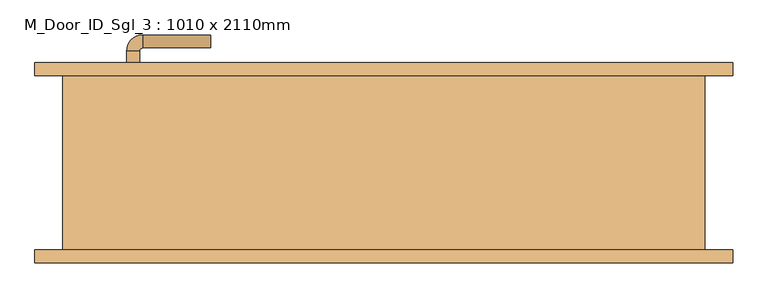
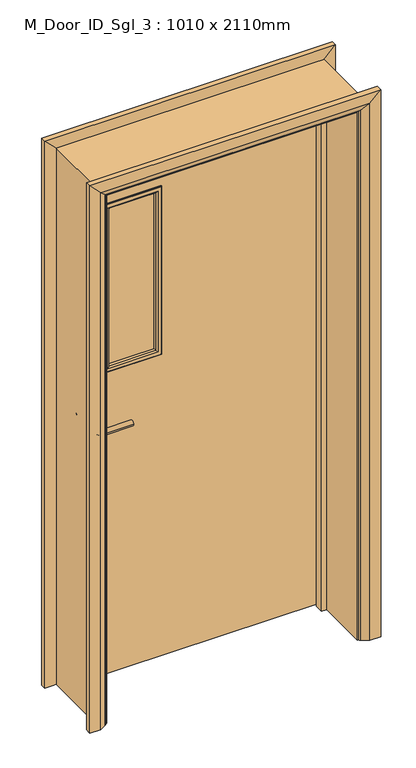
"""IFC4 building model written with IfcOpenShell, lengths in millimetres: door geometry, M_Door_ID_Sgl_3 : 1010 x 2110mm."""

from ifc_helpers import new_model, si_unit, point, frame, frame_2d, origin, place, context, project, spatial, polyline, circle_curve, ellipse_curve, trimmed, segment, composite_curve, outline, extrude, faceted_brep, source, transform, mapped, element, save
from ifc_brep_helpers import plane_surface, cylinder_surface, revolved_surface, advanced_brep


def m_door_id_sgl_3_1010_x_2110mm_fbabd271(model_context):
    return source(origin(), model_context, "Body", "SolidModel", [
        advanced_brep(
        [(-398.0, 89.0, 1000.0), (-378.0, 89.0, 1000.0), (-378.0, 59.0, 1000.0), (-398.0, 59.0, 1000.0), (-373.0, 54.0, 1000.0), (-373.0, 34.0, 1000.0), (-268.0, 34.0, 1000.0), (-268.0, 54.0, 1000.0)],
        [
            (0, 1, circle_curve(frame((-388.0, 89.0, 1000.0), z_axis=(0.0, 1.0, 0.0), x_axis=(1.0, 0.0, 0.0)), 10.0)),
            (1, 0, circle_curve(frame((-388.0, 89.0, 1000.0), z_axis=(0.0, 1.0, 0.0), x_axis=(1.0, 0.0, 0.0)), 10.0)),
            (1, 2),
            (2, 3, circle_curve(frame((-388.0, 59.0, 1000.0), z_axis=(0.0, 1.0, 0.0), x_axis=(1.0, 0.0, 0.0)), 10.0)),
            (3, 0),
            (3, 2, circle_curve(frame((-388.0, 59.0, 1000.0), z_axis=(0.0, 1.0, 0.0), x_axis=(1.0, 0.0, 0.0)), 10.0)),
            (4, 5, circle_curve(frame((-373.0, 44.0, 1000.0), z_axis=(-1.0, 0.0, 0.0), x_axis=(0.0, 1.0, 0.0)), 10.0)),
            (5, 3, circle_curve(frame((-373.0, 59.0, 1000.0), z_axis=(0.0, 0.0, -1.0), x_axis=(-1.0, 0.0, 0.0)), 25.0)),
            (2, 4, circle_curve(frame((-373.0, 59.0, 1000.0), z_axis=(0.0, 0.0, 1.0), x_axis=(-1.0, 0.0, 0.0)), 5.0)),
            (5, 4, circle_curve(frame((-373.0, 44.0, 1000.0), z_axis=(-1.0, 0.0, 0.0), x_axis=(0.0, 1.0, 0.0)), 10.0)),
            (6, 7, circle_curve(frame((-268.0, 44.0, 1000.0), z_axis=(1.0, 0.0, 0.0), x_axis=(0.0, 1.0, 0.0)), 10.0)),
            (7, 6, circle_curve(frame((-268.0, 44.0, 1000.0), z_axis=(1.0, 0.0, 0.0), x_axis=(0.0, 1.0, 0.0)), 10.0)),
            (4, 7),
            (6, 5),
        ],
        [
            plane_surface(frame((-388.0, 89.0, 1000.0), z_axis=(0.0, 1.0, 0.0), x_axis=(0.0, 0.0, 1.0))),
            cylinder_surface(frame((-388.0, 89.0, 1000.0), z_axis=(0.0, 1.0, 0.0), x_axis=(1.0, 0.0, 0.0)), 10.0),
            revolved_surface(trimmed(ellipse_curve(frame((-388.0, 59.0, 1000.0), z_axis=(0.0, -1.0, 0.0), x_axis=(1.0, 0.0, 0.0)), 10.0, 10.0), [point((-398.0, 59.0, 1000.0))], [point((-378.0, 59.0, 1000.0))], True, "CARTESIAN"), (-373.0, 59.0, 1000.0), (0.0, 0.0, -1.0)),
            revolved_surface(trimmed(ellipse_curve(frame((-388.0, 59.0, 1000.0), z_axis=(0.0, -1.0, 0.0), x_axis=(1.0, 0.0, 0.0)), 10.0, 10.0), [point((-378.0, 59.0, 1000.0))], [point((-398.0, 59.0, 1000.0))], True, "CARTESIAN"), (-373.0, 59.0, 1000.0), (0.0, 0.0, -1.0)),
            plane_surface(frame((-268.0, 44.0, 1000.0), z_axis=(1.0, 0.0, 0.0), x_axis=(0.0, 0.0, 1.0))),
            cylinder_surface(frame((-373.0, 44.0, 1000.0), z_axis=(-1.0, 0.0, 0.0), x_axis=(0.0, 1.0, 0.0)), 10.0),
        ],
        [
            (0, [[1, 2]]),
            (1, [[3, 4, 5, -2]]),
            (1, [[-5, 6, -3, -1]]),
            (2, [[7, 8, -4, 9]]),
            (3, [[10, -9, -6, -8]]),
            (4, [[11, 12]]),
            (5, [[13, -11, 14, -7]]),
            (5, [[-14, -12, -13, -10]]),
        ],
    ),
        extrude(outline(composite_curve([segment(trimmed(circle_curve(frame_2d((1000.0, -390.5)), 30.0), [point((1000.0, -420.5))], [point((1000.0, -360.5))], False, "CARTESIAN"), True, "CONTINUOUS"), segment(trimmed(circle_curve(frame_2d((1000.0, -390.5)), 30.0), [point((1000.0, -360.5))], [point((1000.0, -420.5))], False, "CARTESIAN"), True, "CONTINUOUS")], self_intersect=False)), frame((0.0, 89.0, 0.0), z_axis=(0.0, 1.0, 0.0), x_axis=(0.0, 0.0, 1.0)), (0.0, 0.0, 1.0), 8.0),
        advanced_brep(
        [(-398.0, 143.0, 1000.0), (-378.0, 143.0, 1000.0), (-398.0, 173.0, 1000.0), (-378.0, 173.0, 1000.0), (-373.0, 178.0, 1000.0), (-373.0, 198.0, 1000.0), (-268.0, 198.0, 1000.0), (-268.0, 178.0, 1000.0)],
        [
            (0, 1, circle_curve(frame((-388.0, 143.0, 1000.0), z_axis=(0.0, -1.0, 0.0), x_axis=(1.0, 0.0, 0.0)), 10.0)),
            (1, 0, circle_curve(frame((-388.0, 143.0, 1000.0), z_axis=(0.0, -1.0, 0.0), x_axis=(1.0, 0.0, 0.0)), 10.0)),
            (0, 2),
            (2, 3, circle_curve(frame((-388.0, 173.0, 1000.0), z_axis=(0.0, -1.0, 0.0), x_axis=(1.0, 0.0, 0.0)), 10.0)),
            (3, 1),
            (3, 2, circle_curve(frame((-388.0, 173.0, 1000.0), z_axis=(0.0, -1.0, 0.0), x_axis=(1.0, 0.0, 0.0)), 10.0)),
            (4, 3, circle_curve(frame((-373.0, 173.0, 1000.0), z_axis=(0.0, 0.0, 1.0), x_axis=(-1.0, 0.0, 0.0)), 5.0)),
            (2, 5, circle_curve(frame((-373.0, 173.0, 1000.0), z_axis=(0.0, 0.0, -1.0), x_axis=(-1.0, 0.0, 0.0)), 25.0)),
            (5, 4, circle_curve(frame((-373.0, 188.0, 1000.0), z_axis=(-1.0, 0.0, 0.0), x_axis=(0.0, -1.0, 0.0)), 10.0)),
            (4, 5, circle_curve(frame((-373.0, 188.0, 1000.0), z_axis=(-1.0, 0.0, 0.0), x_axis=(0.0, -1.0, 0.0)), 10.0)),
            (6, 7, circle_curve(frame((-268.0, 188.0, 1000.0), z_axis=(1.0, 0.0, 0.0), x_axis=(0.0, -1.0, 0.0)), 10.0)),
            (7, 6, circle_curve(frame((-268.0, 188.0, 1000.0), z_axis=(1.0, 0.0, 0.0), x_axis=(0.0, -1.0, 0.0)), 10.0)),
            (5, 6),
            (7, 4),
        ],
        [
            plane_surface(frame((-388.0, 143.0, 1000.0), z_axis=(0.0, -1.0, 0.0), x_axis=(0.0, 0.0, 1.0))),
            cylinder_surface(frame((-388.0, 143.0, 1000.0), z_axis=(0.0, -1.0, 0.0), x_axis=(1.0, 0.0, 0.0)), 10.0),
            revolved_surface(trimmed(ellipse_curve(frame((-388.0, 173.0, 1000.0), z_axis=(0.0, -1.0, 0.0), x_axis=(1.0, 0.0, 0.0)), 10.0, 10.0), [point((-398.0, 173.0, 1000.0))], [point((-378.0, 173.0, 1000.0))], True, "CARTESIAN"), (-373.0, 173.0, 1000.0), (0.0, 0.0, -1.0)),
            revolved_surface(trimmed(ellipse_curve(frame((-388.0, 173.0, 1000.0), z_axis=(0.0, -1.0, 0.0), x_axis=(1.0, 0.0, 0.0)), 10.0, 10.0), [point((-378.0, 173.0, 1000.0))], [point((-398.0, 173.0, 1000.0))], True, "CARTESIAN"), (-373.0, 173.0, 1000.0), (0.0, 0.0, -1.0)),
            plane_surface(frame((-268.0, 188.0, 1000.0), z_axis=(1.0, 0.0, 0.0), x_axis=(0.0, 0.0, 1.0))),
            cylinder_surface(frame((-373.0, 188.0, 1000.0), z_axis=(-1.0, 0.0, 0.0), x_axis=(0.0, -1.0, 0.0)), 10.0),
        ],
        [
            (0, [[1, 2]]),
            (1, [[-1, 3, 4, 5]]),
            (1, [[-2, -5, 6, -3]]),
            (2, [[7, -4, 8, 9]]),
            (3, [[-8, -6, -7, 10]]),
            (4, [[11, 12]]),
            (5, [[-9, 13, -12, 14]]),
            (5, [[-10, -14, -11, -13]]),
        ],
    ),
        extrude(outline(composite_curve([segment(trimmed(circle_curve(frame_2d((1000.0, -390.5)), 30.0), [point((1000.0, -420.5))], [point((1000.0, -360.5))], False, "CARTESIAN"), True, "CONTINUOUS"), segment(trimmed(circle_curve(frame_2d((1000.0, -390.5)), 30.0), [point((1000.0, -360.5))], [point((1000.0, -420.5))], False, "CARTESIAN"), True, "CONTINUOUS")], self_intersect=False)), frame((0.0, 135.0, 0.0), z_axis=(0.0, 1.0, 0.0), x_axis=(0.0, 0.0, 1.0)), (0.0, 0.0, 1.0), 8.0),
        extrude(outline(polyline([(2068.0, -463.0), (8.0, -463.0), (8.0, 463.0), (2068.0, 463.0), (2068.0, -463.0)]), holes=[polyline([(1843.0, -138.0), (1200.0, -138.0), (1200.0, -338.0), (1843.0, -338.0), (1843.0, -138.0)])]), frame((0.0, 97.0, 0.0), z_axis=(0.0, 1.0, 0.0), x_axis=(0.0, 0.0, 1.0)), (0.0, 0.0, 1.0), 38.0),
        faceted_brep([(-465.0, 135.0, 0.0), (-465.0, -135.0, 0.0), (-497.0, -135.0, 0.0), (-497.0, 135.0, 0.0), (-465.0, 135.0, 2070.0), (-465.0, -135.0, 2070.0), (-497.0, -135.0, 2102.0), (-497.0, 135.0, 2102.0), (465.0, 135.0, 0.0), (497.0, 135.0, 0.0), (497.0, -135.0, 0.0), (465.0, -135.0, 0.0), (465.0, 135.0, 2070.0), (497.0, 135.0, 2102.0), (497.0, -135.0, 2102.0), (465.0, -135.0, 2070.0)], [[[0, 1, 2, 3]], [[1, 0, 4, 5]], [[2, 1, 5, 6]], [[3, 2, 6, 7]], [[0, 3, 7, 4]], [[8, 9, 10, 11]], [[12, 13, 9, 8]], [[13, 14, 10, 9]], [[14, 15, 11, 10]], [[15, 12, 8, 11]], [[5, 4, 12, 15]], [[6, 5, 15, 14]], [[7, 6, 14, 13]], [[4, 7, 13, 12]]]),
        advanced_brep(
        [(-540.0, -155.0, 0.0), (-540.0, -135.0, 0.0), (-470.0, -135.0, 0.0), (-474.0, -141.0, 0.0), (-500.0, -155.0, 0.0), (-540.0, -155.0, 2145.0), (-540.0, -135.0, 2145.0), (-470.0, -135.0, 2075.0), (-474.0, -141.0, 2079.0), (-500.0, -155.0, 2105.0), (540.0, -155.0, 0.0), (500.0, -155.0, 0.0), (474.0, -141.0, 0.0), (470.0, -135.0, 0.0), (540.0, -135.0, 0.0), (540.0, -155.0, 2145.0), (500.0, -155.0, 2105.0), (474.0, -141.0, 2079.0), (470.0, -135.0, 2075.0), (540.0, -135.0, 2145.0)],
        [
            (0, 1),
            (1, 2),
            (2, 3, circle_curve(frame((-478.0, -134.0, 0.0), z_axis=(0.0, 0.0, -1.0), x_axis=(-1.0, 0.0, 0.0)), 8.0622577)),
            (3, 4),
            (4, 0),
            (0, 5),
            (5, 6),
            (6, 1),
            (6, 7),
            (7, 2),
            (7, 8, ellipse_curve(frame((-478.0, -134.0, 2083.0), z_axis=(-0.7071067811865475, 0.0, -0.7071067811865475), x_axis=(0.7071067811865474, 0.0, -0.7071067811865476)), 11.4017543, 8.0622577)),
            (8, 3),
            (8, 9),
            (9, 4),
            (9, 5),
            (10, 11),
            (11, 12),
            (12, 13, circle_curve(frame((478.0, -134.0, 0.0), z_axis=(0.0, 0.0, -1.0), x_axis=(1.0, 0.0, 0.0)), 8.0622577)),
            (13, 14),
            (14, 10),
            (15, 16),
            (16, 11),
            (10, 15),
            (16, 17),
            (17, 12),
            (17, 18, ellipse_curve(frame((478.0, -134.0, 2083.0), z_axis=(0.7071067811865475, 0.0, -0.7071067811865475), x_axis=(0.7071067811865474, 0.0, 0.7071067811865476)), 11.4017543, 8.0622577)),
            (18, 13),
            (18, 19),
            (19, 14),
            (19, 15),
            (5, 15),
            (19, 6),
            (18, 7),
            (17, 8),
            (16, 9),
        ],
        [
            plane_surface(frame((-470.0, -207.8010989, 0.0), z_axis=(0.0, 0.0, -1.0), x_axis=(1.0, 0.0, 0.0))),
            plane_surface(frame((-540.0, -155.0, 0.0), z_axis=(-1.0, 0.0, 0.0), x_axis=(0.0, 0.0, 1.0))),
            plane_surface(frame((-540.0, -135.0, 0.0), z_axis=(0.0, 1.0, 0.0), x_axis=(0.0, 0.0, 1.0))),
            cylinder_surface(frame((-478.0, -134.0, 0.0), z_axis=(0.0, 0.0, -1.0), x_axis=(-1.0, 0.0, 0.0)), 8.0622577),
            plane_surface(frame((-474.0, -141.0, 0.0), z_axis=(0.4740998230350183, -0.8804710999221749, 0.0), x_axis=(0.0, 0.0, 1.0))),
            plane_surface(frame((-500.0, -155.0, 0.0), z_axis=(0.0, -1.0, 0.0), x_axis=(0.0, 0.0, 1.0))),
            plane_surface(frame((470.0, -207.8010989, 0.0), z_axis=(0.0, 0.0, -1.0), x_axis=(-1.0, 0.0, 0.0))),
            plane_surface(frame((500.0, -155.0, 2105.0), z_axis=(0.0, -1.0, 0.0), x_axis=(0.0, 0.0, -1.0))),
            plane_surface(frame((474.0, -141.0, 2079.0), z_axis=(-0.4740998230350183, -0.8804710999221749, 0.0), x_axis=(0.0, 0.0, -1.0))),
            cylinder_surface(frame((478.0, -134.0, 2075.0), z_axis=(0.0, 0.0, 1.0), x_axis=(1.0, 0.0, 0.0)), 8.0622577),
            plane_surface(frame((540.0, -135.0, 2145.0), z_axis=(0.0, 1.0, 0.0), x_axis=(0.0, 0.0, -1.0))),
            plane_surface(frame((540.0, -155.0, 2145.0), z_axis=(1.0, 0.0, 0.0), x_axis=(0.0, 0.0, -1.0))),
            plane_surface(frame((-540.0, -155.0, 2145.0), z_axis=(0.0, 0.0, 1.0), x_axis=(1.0, 0.0, 0.0))),
            plane_surface(frame((-540.0, -135.0, 2145.0), z_axis=(0.0, 1.0, 0.0), x_axis=(1.0, 0.0, 0.0))),
            cylinder_surface(frame((-470.0, -134.0, 2083.0), z_axis=(-1.0, 0.0, 0.0), x_axis=(0.0, 0.0, 1.0)), 8.0622577),
            plane_surface(frame((-474.0, -141.0, 2079.0), z_axis=(0.0, -0.8804710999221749, -0.4740998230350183), x_axis=(1.0, 0.0, 0.0))),
            plane_surface(frame((-500.0, -155.0, 2105.0), z_axis=(0.0, -1.0, 0.0), x_axis=(1.0, 0.0, 0.0))),
        ],
        [
            (0, [[1, 2, 3, 4, 5]]),
            (1, [[-1, 6, 7, 8]]),
            (2, [[-2, -8, 9, 10]]),
            (3, [[-3, -10, 11, 12]]),
            (4, [[-4, -12, 13, 14]]),
            (5, [[-5, -14, 15, -6]]),
            (6, [[16, 17, 18, 19, 20]]),
            (7, [[21, 22, -16, 23]]),
            (8, [[24, 25, -17, -22]]),
            (9, [[26, 27, -18, -25]]),
            (10, [[28, 29, -19, -27]]),
            (11, [[30, -23, -20, -29]]),
            (12, [[-7, 31, -30, 32]]),
            (13, [[-9, -32, -28, 33]]),
            (14, [[-11, -33, -26, 34]]),
            (15, [[-13, -34, -24, 35]]),
            (16, [[-15, -35, -21, -31]]),
        ],
    ),
        advanced_brep(
        [(-540.0, 155.0, 0.0), (-500.0, 155.0, 0.0), (-474.0, 141.0, 0.0), (-470.0, 135.0, 0.0), (-540.0, 135.0, 0.0), (-540.0, 155.0, 2145.0), (-500.0, 155.0, 2105.0), (-474.0, 141.0, 2079.0), (-470.0, 135.0, 2075.0), (-540.0, 135.0, 2145.0), (540.0, 155.0, 0.0), (540.0, 135.0, 0.0), (470.0, 135.0, 0.0), (474.0, 141.0, 0.0), (500.0, 155.0, 0.0), (540.0, 155.0, 2145.0), (540.0, 135.0, 2145.0), (470.0, 135.0, 2075.0), (474.0, 141.0, 2079.0), (500.0, 155.0, 2105.0)],
        [
            (0, 1),
            (1, 2),
            (2, 3, circle_curve(frame((-478.0, 134.0, 0.0), z_axis=(0.0, 0.0, -1.0), x_axis=(-1.0, 0.0, 0.0)), 8.0622577)),
            (3, 4),
            (4, 0),
            (0, 5),
            (5, 6),
            (6, 1),
            (6, 7),
            (7, 2),
            (7, 8, ellipse_curve(frame((-478.0, 134.0, 2083.0), z_axis=(-0.7071067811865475, 0.0, -0.7071067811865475), x_axis=(0.7071067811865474, 0.0, -0.7071067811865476)), 11.4017543, 8.0622577)),
            (8, 3),
            (8, 9),
            (9, 4),
            (9, 5),
            (10, 11),
            (11, 12),
            (12, 13, circle_curve(frame((478.0, 134.0, 0.0), z_axis=(0.0, 0.0, -1.0), x_axis=(1.0, 0.0, 0.0)), 8.0622577)),
            (13, 14),
            (14, 10),
            (15, 16),
            (16, 11),
            (10, 15),
            (16, 17),
            (17, 12),
            (17, 18, ellipse_curve(frame((478.0, 134.0, 2083.0), z_axis=(0.7071067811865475, 0.0, -0.7071067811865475), x_axis=(0.7071067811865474, 0.0, 0.7071067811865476)), 11.4017543, 8.0622577)),
            (18, 13),
            (18, 19),
            (19, 14),
            (19, 15),
            (5, 15),
            (19, 6),
            (18, 7),
            (17, 8),
            (16, 9),
        ],
        [
            plane_surface(frame((-470.0, 62.1989011, 0.0), z_axis=(0.0, 0.0, -1.0), x_axis=(1.0, 0.0, 0.0))),
            plane_surface(frame((-540.0, 155.0, 0.0), z_axis=(0.0, 1.0, 0.0), x_axis=(0.0, 0.0, 1.0))),
            plane_surface(frame((-500.0, 155.0, 0.0), z_axis=(0.4740998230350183, 0.8804710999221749, 0.0), x_axis=(0.0, 0.0, 1.0))),
            cylinder_surface(frame((-478.0, 134.0, 0.0), z_axis=(0.0, 0.0, -1.0), x_axis=(-1.0, 0.0, 0.0)), 8.0622577),
            plane_surface(frame((-470.0, 135.0, 0.0), z_axis=(0.0, -1.0, 0.0), x_axis=(0.0, 0.0, 1.0))),
            plane_surface(frame((-540.0, 135.0, 0.0), z_axis=(-1.0, 0.0, 0.0), x_axis=(0.0, 0.0, 1.0))),
            plane_surface(frame((470.0, 62.1989011, 0.0), z_axis=(0.0, 0.0, -1.0), x_axis=(-1.0, 0.0, 0.0))),
            plane_surface(frame((540.0, 135.0, 2145.0), z_axis=(1.0, 0.0, 0.0), x_axis=(0.0, 0.0, -1.0))),
            plane_surface(frame((470.0, 135.0, 2075.0), z_axis=(0.0, -1.0, 0.0), x_axis=(0.0, 0.0, -1.0))),
            cylinder_surface(frame((478.0, 134.0, 2075.0), z_axis=(0.0, 0.0, 1.0), x_axis=(1.0, 0.0, 0.0)), 8.0622577),
            plane_surface(frame((500.0, 155.0, 2105.0), z_axis=(-0.4740998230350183, 0.8804710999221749, 0.0), x_axis=(0.0, 0.0, -1.0))),
            plane_surface(frame((540.0, 155.0, 2145.0), z_axis=(0.0, 1.0, 0.0), x_axis=(0.0, 0.0, -1.0))),
            plane_surface(frame((-540.0, 155.0, 2145.0), z_axis=(0.0, 1.0, 0.0), x_axis=(1.0, 0.0, 0.0))),
            plane_surface(frame((-500.0, 155.0, 2105.0), z_axis=(0.0, 0.8804710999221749, -0.4740998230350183), x_axis=(1.0, 0.0, 0.0))),
            cylinder_surface(frame((-470.0, 134.0, 2083.0), z_axis=(-1.0, 0.0, 0.0), x_axis=(0.0, 0.0, 1.0)), 8.0622577),
            plane_surface(frame((-470.0, 135.0, 2075.0), z_axis=(0.0, -1.0, 0.0), x_axis=(1.0, 0.0, 0.0))),
            plane_surface(frame((-540.0, 135.0, 2145.0), z_axis=(0.0, 0.0, 1.0), x_axis=(1.0, 0.0, 0.0))),
        ],
        [
            (0, [[1, 2, 3, 4, 5]]),
            (1, [[-1, 6, 7, 8]]),
            (2, [[-2, -8, 9, 10]]),
            (3, [[-3, -10, 11, 12]]),
            (4, [[-4, -12, 13, 14]]),
            (5, [[-5, -14, 15, -6]]),
            (6, [[16, 17, 18, 19, 20]]),
            (7, [[21, 22, -16, 23]]),
            (8, [[24, 25, -17, -22]]),
            (9, [[26, 27, -18, -25]]),
            (10, [[28, 29, -19, -27]]),
            (11, [[30, -23, -20, -29]]),
            (12, [[-7, 31, -30, 32]]),
            (13, [[-9, -32, -28, 33]]),
            (14, [[-11, -33, -26, 34]]),
            (15, [[-13, -34, -24, 35]]),
            (16, [[-15, -35, -21, -31]]),
        ],
    ),
        extrude(outline(polyline([(0.0, -465.0), (0.0, -446.0), (2051.0, -446.0), (2051.0, 446.0), (0.0, 446.0), (0.0, 465.0), (2070.0, 465.0), (2070.0, -465.0), (0.0, -465.0)])), frame((0.0, 63.0, 0.0), z_axis=(0.0, 1.0, 0.0), x_axis=(0.0, 0.0, 1.0)), (0.0, 0.0, 1.0), 32.0),
        advanced_brep(
        [(-130.0, 139.0, 1851.0), (-130.0, 135.0, 1851.0), (-130.0, 135.0, 1192.0), (-130.0, 139.0, 1192.0), (-132.0, 141.0, 1849.0), (-132.0, 141.0, 1194.0), (-150.0, 136.0, 1831.0), (-145.0, 141.0, 1836.0), (-145.0, 141.0, 1207.0), (-150.0, 136.0, 1212.0), (-150.0, 125.0, 1831.0), (-150.0, 125.0, 1212.0), (-138.0, 135.0, 1843.0), (-138.0, 125.0, 1843.0), (-138.0, 125.0, 1200.0), (-138.0, 135.0, 1200.0), (-346.0, 135.0, 1192.0), (-346.0, 139.0, 1192.0), (-344.0, 141.0, 1194.0), (-331.0, 141.0, 1207.0), (-326.0, 136.0, 1212.0), (-326.0, 125.0, 1212.0), (-338.0, 125.0, 1200.0), (-338.0, 135.0, 1200.0), (-346.0, 135.0, 1851.0), (-346.0, 139.0, 1851.0), (-344.0, 141.0, 1849.0), (-331.0, 141.0, 1836.0), (-326.0, 136.0, 1831.0), (-326.0, 125.0, 1831.0), (-338.0, 125.0, 1843.0), (-338.0, 135.0, 1843.0)],
        [
            (0, 1),
            (1, 2),
            (2, 3),
            (3, 0),
            (4, 0, ellipse_curve(frame((-132.0, 139.0, 1849.0), z_axis=(0.7071067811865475, 0.0, -0.7071067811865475), x_axis=(0.7071067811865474, 0.0, 0.7071067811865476)), 2.8284271, 2.0)),
            (3, 5, ellipse_curve(frame((-132.0, 139.0, 1194.0), z_axis=(0.7071067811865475, 0.0, 0.7071067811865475), x_axis=(-0.7071067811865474, 0.0, 0.7071067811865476)), 2.8284271, 2.0)),
            (5, 4),
            (6, 7, ellipse_curve(frame((-145.0, 136.0, 1836.0), z_axis=(0.7071067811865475, 0.0, -0.7071067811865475), x_axis=(0.7071067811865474, 0.0, 0.7071067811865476)), 7.0710678, 5.0)),
            (7, 8),
            (8, 9, ellipse_curve(frame((-145.0, 136.0, 1207.0), z_axis=(0.7071067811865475, 0.0, 0.7071067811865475), x_axis=(-0.7071067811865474, 0.0, 0.7071067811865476)), 7.0710678, 5.0)),
            (9, 6),
            (10, 6),
            (9, 11),
            (11, 10),
            (12, 13),
            (13, 14),
            (14, 15),
            (15, 12),
            (2, 16),
            (16, 17),
            (17, 3),
            (17, 18, ellipse_curve(frame((-344.0, 139.0, 1194.0), z_axis=(0.7071067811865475, 0.0, -0.7071067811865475), x_axis=(0.7071067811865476, 0.0, 0.7071067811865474)), 2.8284271, 2.0)),
            (18, 5),
            (8, 19),
            (19, 20, ellipse_curve(frame((-331.0, 136.0, 1207.0), z_axis=(0.7071067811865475, 0.0, -0.7071067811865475), x_axis=(0.7071067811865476, 0.0, 0.7071067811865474)), 7.0710678, 5.0)),
            (20, 9),
            (20, 21),
            (21, 11),
            (14, 22),
            (22, 23),
            (23, 15),
            (16, 24),
            (24, 25),
            (25, 17),
            (25, 26, ellipse_curve(frame((-344.0, 139.0, 1849.0), z_axis=(-0.7071067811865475, 0.0, -0.7071067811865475), x_axis=(0.7071067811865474, 0.0, -0.7071067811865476)), 2.8284271, 2.0)),
            (26, 18),
            (19, 27),
            (27, 28, ellipse_curve(frame((-331.0, 136.0, 1836.0), z_axis=(-0.7071067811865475, 0.0, -0.7071067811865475), x_axis=(0.7071067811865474, 0.0, -0.7071067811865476)), 7.0710678, 5.0)),
            (28, 20),
            (28, 29),
            (29, 21),
            (22, 30),
            (30, 31),
            (31, 23),
            (24, 1),
            (0, 25),
            (4, 26),
            (7, 27),
            (6, 28),
            (10, 29),
            (13, 30),
            (12, 31),
        ],
        [
            plane_surface(frame((-130.0, 135.0, 1851.0), z_axis=(1.0, 0.0, 0.0), x_axis=(0.0, 0.0, -1.0))),
            cylinder_surface(frame((-132.0, 139.0, 1843.0), z_axis=(0.0, 0.0, 1.0), x_axis=(1.0, 0.0, 0.0)), 2.0),
            cylinder_surface(frame((-145.0, 136.0, 1843.0), z_axis=(0.0, 0.0, 1.0), x_axis=(1.0, 0.0, 0.0)), 5.0),
            plane_surface(frame((-150.0, 136.0, 1831.0), z_axis=(-1.0, 0.0, 0.0), x_axis=(0.0, 0.0, -1.0))),
            plane_surface(frame((-138.0, 125.0, 1843.0), z_axis=(1.0, 0.0, 0.0), x_axis=(0.0, 0.0, -1.0))),
            plane_surface(frame((-130.0, 135.0, 1192.0), z_axis=(0.0, 0.0, -1.0), x_axis=(-1.0, 0.0, 0.0))),
            cylinder_surface(frame((-138.0, 139.0, 1194.0), z_axis=(1.0, 0.0, 0.0), x_axis=(0.0, 0.0, -1.0)), 2.0),
            cylinder_surface(frame((-138.0, 136.0, 1207.0), z_axis=(1.0, 0.0, 0.0), x_axis=(0.0, 0.0, -1.0)), 5.0),
            plane_surface(frame((-150.0, 136.0, 1212.0), z_axis=(0.0, 0.0, 1.0), x_axis=(-1.0, 0.0, 0.0))),
            plane_surface(frame((-138.0, 125.0, 1200.0), z_axis=(0.0, 0.0, -1.0), x_axis=(-1.0, 0.0, 0.0))),
            plane_surface(frame((-346.0, 135.0, 1192.0), z_axis=(-1.0, 0.0, 0.0), x_axis=(0.0, 0.0, 1.0))),
            cylinder_surface(frame((-344.0, 139.0, 1200.0), z_axis=(0.0, 0.0, -1.0), x_axis=(-1.0, 0.0, 0.0)), 2.0),
            cylinder_surface(frame((-331.0, 136.0, 1200.0), z_axis=(0.0, 0.0, -1.0), x_axis=(-1.0, 0.0, 0.0)), 5.0),
            plane_surface(frame((-326.0, 136.0, 1212.0), z_axis=(1.0, 0.0, 0.0), x_axis=(0.0, 0.0, 1.0))),
            plane_surface(frame((-338.0, 125.0, 1200.0), z_axis=(-1.0, 0.0, 0.0), x_axis=(0.0, 0.0, 1.0))),
            plane_surface(frame((-346.0, 135.0, 1851.0), z_axis=(0.0, 0.0, 1.0), x_axis=(1.0, 0.0, 0.0))),
            cylinder_surface(frame((-338.0, 139.0, 1849.0), z_axis=(-1.0, 0.0, 0.0), x_axis=(0.0, 0.0, 1.0)), 2.0),
            plane_surface(frame((-344.0, 141.0, 1849.0), z_axis=(0.0, 1.0, 0.0), x_axis=(1.0, 0.0, 0.0))),
            cylinder_surface(frame((-338.0, 136.0, 1836.0), z_axis=(-1.0, 0.0, 0.0), x_axis=(0.0, 0.0, 1.0)), 5.0),
            plane_surface(frame((-326.0, 136.0, 1831.0), z_axis=(0.0, 0.0, -1.0), x_axis=(1.0, 0.0, 0.0))),
            plane_surface(frame((-326.0, 125.0, 1831.0), z_axis=(0.0, -1.0, 0.0), x_axis=(1.0, 0.0, 0.0))),
            plane_surface(frame((-338.0, 125.0, 1843.0), z_axis=(0.0, 0.0, 1.0), x_axis=(1.0, 0.0, 0.0))),
            plane_surface(frame((-338.0, 135.0, 1843.0), z_axis=(0.0, -1.0, 0.0), x_axis=(1.0, 0.0, 0.0))),
        ],
        [
            (0, [[1, 2, 3, 4]]),
            (1, [[5, -4, 6, 7]]),
            (2, [[8, 9, 10, 11]]),
            (3, [[12, -11, 13, 14]]),
            (4, [[15, 16, 17, 18]]),
            (5, [[-3, 19, 20, 21]]),
            (6, [[-6, -21, 22, 23]]),
            (7, [[-10, 24, 25, 26]]),
            (8, [[-13, -26, 27, 28]]),
            (9, [[-17, 29, 30, 31]]),
            (10, [[-20, 32, 33, 34]]),
            (11, [[-22, -34, 35, 36]]),
            (12, [[-25, 37, 38, 39]]),
            (13, [[-27, -39, 40, 41]]),
            (14, [[-30, 42, 43, 44]]),
            (15, [[-33, 45, -1, 46]]),
            (16, [[-35, -46, -5, 47]]),
            (17, [[-23, -36, -47, -7], [48, -37, -24, -9]]),
            (18, [[-38, -48, -8, 49]]),
            (19, [[-40, -49, -12, 50]]),
            (20, [[51, -42, -29, -16], [-28, -41, -50, -14]]),
            (21, [[-43, -51, -15, 52]]),
            (22, [[-45, -32, -19, -2], [-31, -44, -52, -18]]),
        ],
    ),
        advanced_brep(
        [(-138.0, 107.0, 1843.0), (-138.0, 97.0, 1843.0), (-138.0, 97.0, 1200.0), (-138.0, 107.0, 1200.0), (-150.0, 96.0, 1831.0), (-150.0, 107.0, 1831.0), (-150.0, 107.0, 1212.0), (-150.0, 96.0, 1212.0), (-145.0, 91.0, 1836.0), (-145.0, 91.0, 1207.0), (-130.0, 93.0, 1851.0), (-132.0, 91.0, 1849.0), (-132.0, 91.0, 1194.0), (-130.0, 93.0, 1192.0), (-130.0, 97.0, 1851.0), (-130.0, 97.0, 1192.0), (-338.0, 97.0, 1200.0), (-338.0, 107.0, 1200.0), (-326.0, 107.0, 1212.0), (-326.0, 96.0, 1212.0), (-331.0, 91.0, 1207.0), (-344.0, 91.0, 1194.0), (-346.0, 93.0, 1192.0), (-346.0, 97.0, 1192.0), (-338.0, 97.0, 1843.0), (-338.0, 107.0, 1843.0), (-326.0, 107.0, 1831.0), (-326.0, 96.0, 1831.0), (-331.0, 91.0, 1836.0), (-344.0, 91.0, 1849.0), (-346.0, 93.0, 1851.0), (-346.0, 97.0, 1851.0)],
        [
            (0, 1),
            (1, 2),
            (2, 3),
            (3, 0),
            (4, 5),
            (5, 6),
            (6, 7),
            (7, 4),
            (8, 4, ellipse_curve(frame((-145.0, 96.0, 1836.0), z_axis=(0.7071067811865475, 0.0, -0.7071067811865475), x_axis=(0.7071067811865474, 0.0, 0.7071067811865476)), 7.0710678, 5.0)),
            (7, 9, ellipse_curve(frame((-145.0, 96.0, 1207.0), z_axis=(0.7071067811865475, 0.0, 0.7071067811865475), x_axis=(-0.7071067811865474, 0.0, 0.7071067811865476)), 7.0710678, 5.0)),
            (9, 8),
            (10, 11, ellipse_curve(frame((-132.0, 93.0, 1849.0), z_axis=(0.7071067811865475, 0.0, -0.7071067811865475), x_axis=(0.7071067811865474, 0.0, 0.7071067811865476)), 2.8284271, 2.0)),
            (11, 12),
            (12, 13, ellipse_curve(frame((-132.0, 93.0, 1194.0), z_axis=(0.7071067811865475, 0.0, 0.7071067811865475), x_axis=(-0.7071067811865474, 0.0, 0.7071067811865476)), 2.8284271, 2.0)),
            (13, 10),
            (14, 10),
            (13, 15),
            (15, 14),
            (2, 16),
            (16, 17),
            (17, 3),
            (6, 18),
            (18, 19),
            (19, 7),
            (19, 20, ellipse_curve(frame((-331.0, 96.0, 1207.0), z_axis=(0.7071067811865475, 0.0, -0.7071067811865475), x_axis=(0.7071067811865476, 0.0, 0.7071067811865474)), 7.0710678, 5.0)),
            (20, 9),
            (12, 21),
            (21, 22, ellipse_curve(frame((-344.0, 93.0, 1194.0), z_axis=(0.7071067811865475, 0.0, -0.7071067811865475), x_axis=(0.7071067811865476, 0.0, 0.7071067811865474)), 2.8284271, 2.0)),
            (22, 13),
            (22, 23),
            (23, 15),
            (16, 24),
            (24, 25),
            (25, 17),
            (18, 26),
            (26, 27),
            (27, 19),
            (27, 28, ellipse_curve(frame((-331.0, 96.0, 1836.0), z_axis=(-0.7071067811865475, 0.0, -0.7071067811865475), x_axis=(0.7071067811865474, 0.0, -0.7071067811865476)), 7.0710678, 5.0)),
            (28, 20),
            (21, 29),
            (29, 30, ellipse_curve(frame((-344.0, 93.0, 1849.0), z_axis=(-0.7071067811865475, 0.0, -0.7071067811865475), x_axis=(0.7071067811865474, 0.0, -0.7071067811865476)), 2.8284271, 2.0)),
            (30, 22),
            (30, 31),
            (31, 23),
            (31, 14),
            (1, 24),
            (0, 25),
            (5, 26),
            (4, 27),
            (8, 28),
            (11, 29),
            (10, 30),
        ],
        [
            plane_surface(frame((-138.0, 97.0, 1843.0), z_axis=(1.0, 0.0, 0.0), x_axis=(0.0, 0.0, -1.0))),
            plane_surface(frame((-150.0, 107.0, 1831.0), z_axis=(-1.0, 0.0, 0.0), x_axis=(0.0, 0.0, -1.0))),
            cylinder_surface(frame((-145.0, 96.0, 1843.0), z_axis=(0.0, 0.0, 1.0), x_axis=(1.0, 0.0, 0.0)), 5.0),
            cylinder_surface(frame((-132.0, 93.0, 1843.0), z_axis=(0.0, 0.0, 1.0), x_axis=(1.0, 0.0, 0.0)), 2.0),
            plane_surface(frame((-130.0, 93.0, 1851.0), z_axis=(1.0, 0.0, 0.0), x_axis=(0.0, 0.0, -1.0))),
            plane_surface(frame((-138.0, 97.0, 1200.0), z_axis=(0.0, 0.0, -1.0), x_axis=(-1.0, 0.0, 0.0))),
            plane_surface(frame((-150.0, 107.0, 1212.0), z_axis=(0.0, 0.0, 1.0), x_axis=(-1.0, 0.0, 0.0))),
            cylinder_surface(frame((-138.0, 96.0, 1207.0), z_axis=(1.0, 0.0, 0.0), x_axis=(0.0, 0.0, -1.0)), 5.0),
            cylinder_surface(frame((-138.0, 93.0, 1194.0), z_axis=(1.0, 0.0, 0.0), x_axis=(0.0, 0.0, -1.0)), 2.0),
            plane_surface(frame((-130.0, 93.0, 1192.0), z_axis=(0.0, 0.0, -1.0), x_axis=(-1.0, 0.0, 0.0))),
            plane_surface(frame((-338.0, 97.0, 1200.0), z_axis=(-1.0, 0.0, 0.0), x_axis=(0.0, 0.0, 1.0))),
            plane_surface(frame((-326.0, 107.0, 1212.0), z_axis=(1.0, 0.0, 0.0), x_axis=(0.0, 0.0, 1.0))),
            cylinder_surface(frame((-331.0, 96.0, 1200.0), z_axis=(0.0, 0.0, -1.0), x_axis=(-1.0, 0.0, 0.0)), 5.0),
            cylinder_surface(frame((-344.0, 93.0, 1200.0), z_axis=(0.0, 0.0, -1.0), x_axis=(-1.0, 0.0, 0.0)), 2.0),
            plane_surface(frame((-346.0, 93.0, 1192.0), z_axis=(-1.0, 0.0, 0.0), x_axis=(0.0, 0.0, 1.0))),
            plane_surface(frame((-346.0, 97.0, 1851.0), z_axis=(0.0, 1.0, 0.0), x_axis=(1.0, 0.0, 0.0))),
            plane_surface(frame((-338.0, 97.0, 1843.0), z_axis=(0.0, 0.0, 1.0), x_axis=(1.0, 0.0, 0.0))),
            plane_surface(frame((-338.0, 107.0, 1843.0), z_axis=(0.0, 1.0, 0.0), x_axis=(1.0, 0.0, 0.0))),
            plane_surface(frame((-326.0, 107.0, 1831.0), z_axis=(0.0, 0.0, -1.0), x_axis=(1.0, 0.0, 0.0))),
            cylinder_surface(frame((-338.0, 96.0, 1836.0), z_axis=(-1.0, 0.0, 0.0), x_axis=(0.0, 0.0, 1.0)), 5.0),
            plane_surface(frame((-331.0, 91.0, 1836.0), z_axis=(0.0, -1.0, 0.0), x_axis=(1.0, 0.0, 0.0))),
            cylinder_surface(frame((-338.0, 93.0, 1849.0), z_axis=(-1.0, 0.0, 0.0), x_axis=(0.0, 0.0, 1.0)), 2.0),
            plane_surface(frame((-346.0, 93.0, 1851.0), z_axis=(0.0, 0.0, 1.0), x_axis=(1.0, 0.0, 0.0))),
        ],
        [
            (0, [[1, 2, 3, 4]]),
            (1, [[5, 6, 7, 8]]),
            (2, [[9, -8, 10, 11]]),
            (3, [[12, 13, 14, 15]]),
            (4, [[16, -15, 17, 18]]),
            (5, [[-3, 19, 20, 21]]),
            (6, [[-7, 22, 23, 24]]),
            (7, [[-10, -24, 25, 26]]),
            (8, [[-14, 27, 28, 29]]),
            (9, [[-17, -29, 30, 31]]),
            (10, [[-20, 32, 33, 34]]),
            (11, [[-23, 35, 36, 37]]),
            (12, [[-25, -37, 38, 39]]),
            (13, [[-28, 40, 41, 42]]),
            (14, [[-30, -42, 43, 44]]),
            (15, [[-31, -44, 45, -18], [46, -32, -19, -2]]),
            (16, [[-33, -46, -1, 47]]),
            (17, [[-21, -34, -47, -4], [48, -35, -22, -6]]),
            (18, [[-36, -48, -5, 49]]),
            (19, [[-38, -49, -9, 50]]),
            (20, [[51, -40, -27, -13], [-26, -39, -50, -11]]),
            (21, [[-41, -51, -12, 52]]),
            (22, [[-43, -52, -16, -45]]),
        ],
    ),
        extrude(outline(polyline([(-338.0, 125.0), (-138.0, 125.0), (-138.0, 107.0), (-338.0, 107.0), (-338.0, 125.0)])), frame((0.0, 0.0, 1200.0), z_axis=(0.0, 0.0, 1.0), x_axis=(1.0, 0.0, 0.0)), (0.0, 0.0, 1.0), 643.0),
    ])


if __name__ == "__main__":
    model = new_model("IFC4")
    model_context = context("Model", 3, world=origin())
    ifc_project = project(units=[si_unit("LENGTHUNIT", "METRE", prefix="MILLI")], contexts=[model_context])
    site = spatial("IfcSite", under=ifc_project)
    building = spatial("IfcBuilding", under=site)
    placement = place(None, origin())
    m_door_id_sgl_3_1010_x_2110mm_shape = m_door_id_sgl_3_1010_x_2110mm_fbabd271(model_context)
    element("IfcDoor", 1, ObjectType="M_Door_ID_Sgl_3 : 1010 x 2110mm", at=placement, inside=building, context=model_context, shape_type="MappedRepresentation", body=[
        mapped(m_door_id_sgl_3_1010_x_2110mm_shape, transform((0.0, 0.0, 0.0), x_axis=(1.0, 0.0, 0.0), y_axis=(0.0, 1.0, 0.0), z_axis=(0.0, 0.0, 1.0))),
    ])
    save(model, "model.ifc")
